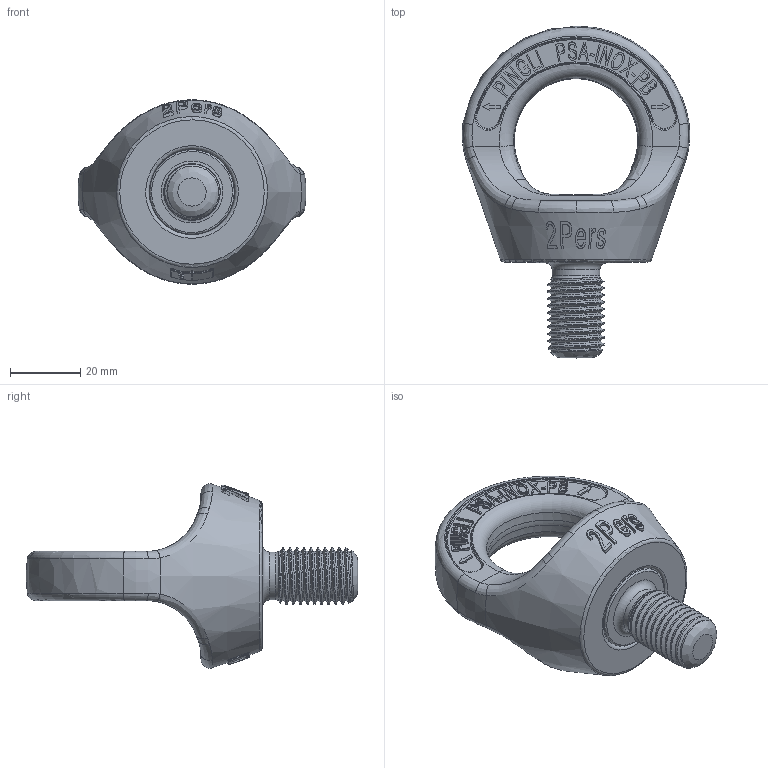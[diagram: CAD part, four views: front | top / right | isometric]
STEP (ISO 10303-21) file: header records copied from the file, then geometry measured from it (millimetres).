
FILE_DESCRIPTION(/* description */ (''),/* implementation_level */ '2;1');
FILE_NAME(/* name */ 'PSA-M16-INOX.stp',/* time_stamp */ '2024-06-25T10:24:18+08:00',/* author */ (''),/* organization */ (''),/* preprocessor_version */ 'ST-DEVELOPER v16',/* originating_system */ 'SIEMENS PLM Software NX 10.0',/* authorisation */ '');
FILE_SCHEMA (('CONFIG_CONTROL_DESIGN'));
Products named in the file (1): PSA-M16-INOX_model
Bounding box: 64.66 x 94.25 x 52.34 mm (x, y, z)
Volume: 59408.6 mm3; surface area: 18002.6 mm2
Topology: 2 solids, 2 shells, 1005 faces, 4152 edges, 3246 vertices
Faces by surface type: plane 470, bspline 444, cylinder 37, torus 33, cone 19, sphere 2
Full cylindrical faces by diameter (mm): 13.6 x1, 24 x1, 24.3 x2, 31 x1, 31.8 x1
Entity records: 62884 total; most frequent: CARTESIAN_POINT 39186, ORIENTED_EDGE 8236, EDGE_CURVE 4118, VERTEX_POINT 3245, B_SPLINE_CURVE_WITH_KNOTS 2488, EDGE_LOOP 1135, DIRECTION 1124, ADVANCED_FACE 1004
